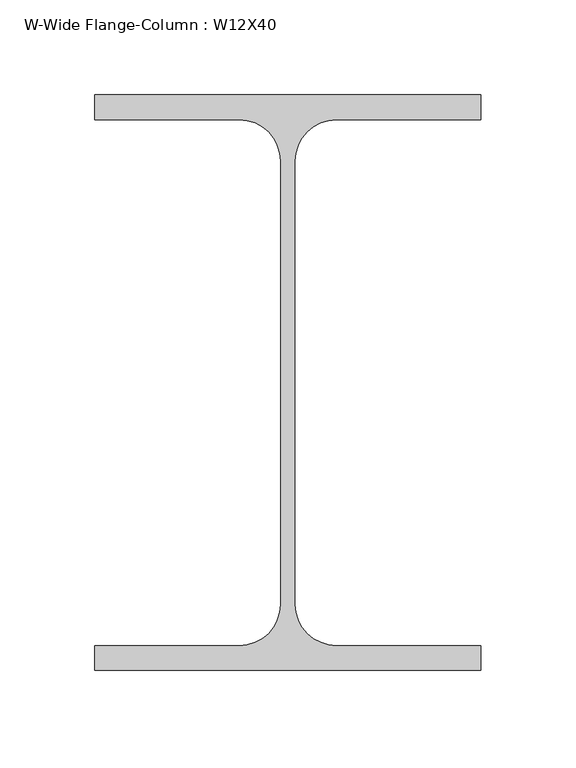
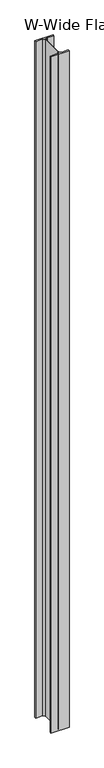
"""IFC4 building model written with IfcOpenShell, lengths in millimetres: column geometry, W-Wide Flange-Column : W12X40."""

from ifc_helpers import new_model, si_unit, point, frame, frame_2d, origin, place, context, project, spatial, polyline, circle_curve, trimmed, segment, composite_curve, outline, extrude, source, transform, mapped, element, save


def w_wide_flange_column_w12x40_bfea6e2c(model_context):
    return source(origin(), model_context, "Body", "SweptSolid", [
        extrude(outline(composite_curve([segment(polyline([(101.6496094, 151.6558594), (101.6496094, 138.5589844), (25.5984375, 138.5589844)]), True, "CONTINUOUS"), segment(trimmed(circle_curve(frame_2d((25.5984375, 116.7308594)), 21.828125), [point((25.5984375, 138.5589844))], [point((3.7703125, 116.7308594))], True, "CARTESIAN"), True, "CONTINUOUS"), segment(polyline([(3.7703125, 116.7308594), (3.7703125, -116.7308594)]), True, "CONTINUOUS"), segment(trimmed(circle_curve(frame_2d((25.5984375, -116.7308594)), 21.828125), [point((3.7703125, -116.7308594))], [point((25.5984375, -138.5589844))], True, "CARTESIAN"), True, "CONTINUOUS"), segment(polyline([(25.5984375, -138.5589844), (101.6496094, -138.5589844), (101.6496094, -151.6558594), (-101.6496094, -151.6558594), (-101.6496094, -138.5589844), (-25.5984375, -138.5589844)]), True, "CONTINUOUS"), segment(trimmed(circle_curve(frame_2d((-25.5984375, -116.7308594)), 21.828125), [point((-25.5984375, -138.5589844))], [point((-3.7703125, -116.7308594))], True, "CARTESIAN"), True, "CONTINUOUS"), segment(polyline([(-3.7703125, -116.7308594), (-3.7703125, 116.7308594)]), True, "CONTINUOUS"), segment(trimmed(circle_curve(frame_2d((-25.5984375, 116.7308594)), 21.828125), [point((-3.7703125, 116.7308594))], [point((-25.5984375, 138.5589844))], True, "CARTESIAN"), True, "CONTINUOUS"), segment(polyline([(-25.5984375, 138.5589844), (-101.6496094, 138.5589844), (-101.6496094, 151.6558594), (101.6496094, 151.6558594)]), True, "CONTINUOUS")], self_intersect=False)), frame((0.0, 0.0, 30480.0), z_axis=(0.0, 0.0, 1.0), x_axis=(1.0, 0.0, 0.0)), (0.0, 0.0, 1.0), 7924.8),
    ])


if __name__ == "__main__":
    model = new_model("IFC4")
    model_context = context("Model", 3, world=origin())
    ifc_project = project(units=[si_unit("LENGTHUNIT", "METRE", prefix="MILLI")], contexts=[model_context])
    site = spatial("IfcSite", under=ifc_project)
    building = spatial("IfcBuilding", under=site)
    placement = place(None, origin())
    w_wide_flange_column_w12x40_shape = w_wide_flange_column_w12x40_bfea6e2c(model_context)
    element("IfcColumn", 1, ObjectType="W-Wide Flange-Column : W12X40", at=placement, inside=building, context=model_context, shape_type="MappedRepresentation", body=[
        mapped(w_wide_flange_column_w12x40_shape, transform((0.0, 0.0, 0.0), x_axis=(1.0, 0.0, 0.0), y_axis=(0.0, 1.0, 0.0), z_axis=(0.0, 0.0, 1.0))),
    ])
    save(model, "model.ifc")
